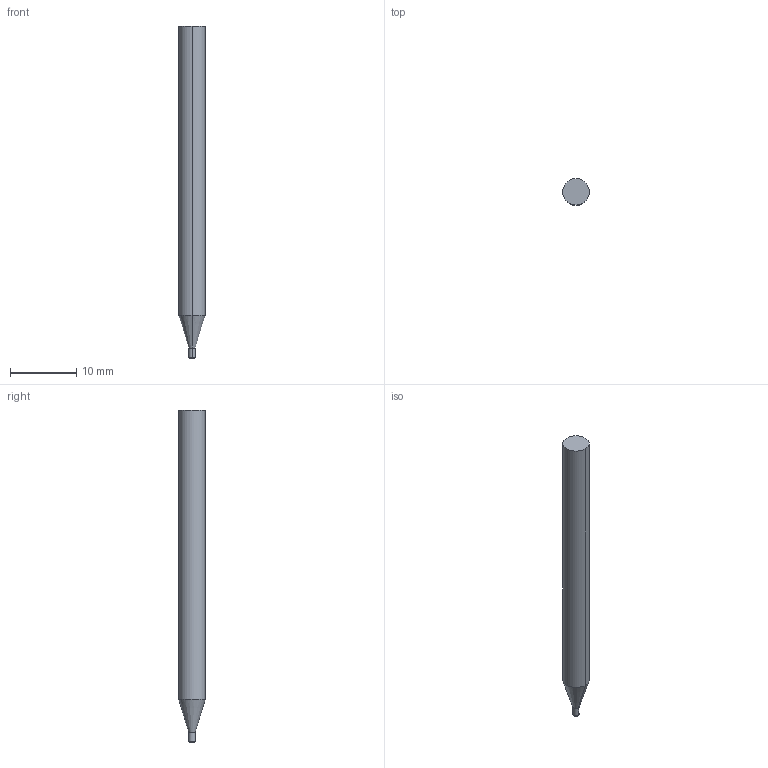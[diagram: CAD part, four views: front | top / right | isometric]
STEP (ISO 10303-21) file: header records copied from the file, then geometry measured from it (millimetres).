
FILE_DESCRIPTION((' '),'2;1');
FILE_NAME( '3MVSM0100R.10AH.stp', '2026-01-21T19:27:11', (' '), ('--- Datakit www.datakit.com---'), ' Datakit CrossCadWare V2025.4 Sep 19 2025', 'Mastercam 2027', ' ');
FILE_SCHEMA(('AUTOMOTIVE_DESIGN { 1 0 10303 214 1 1 1 1 }'));
Length unit declared in the file: inch
Products named in the file (1): 3MVSM0100R
Bounding box: 4 x 4 x 50 mm (x, y, z)
Volume: 576.1 mm3; surface area: 606.1 mm2
Topology: 1 solids, 1 shells, 10 faces, 18 edges, 10 vertices
Faces by surface type: cylinder 4, plane 2, torus 2, cone 2
Entity records: 318 total; most frequent: DIRECTION 60, CARTESIAN_POINT 43, ORIENTED_EDGE 36, AXIS2_PLACEMENT_3D 27, EDGE_CURVE 18, CIRCLE 12, VERTEX_POINT 10, EDGE_LOOP 10
